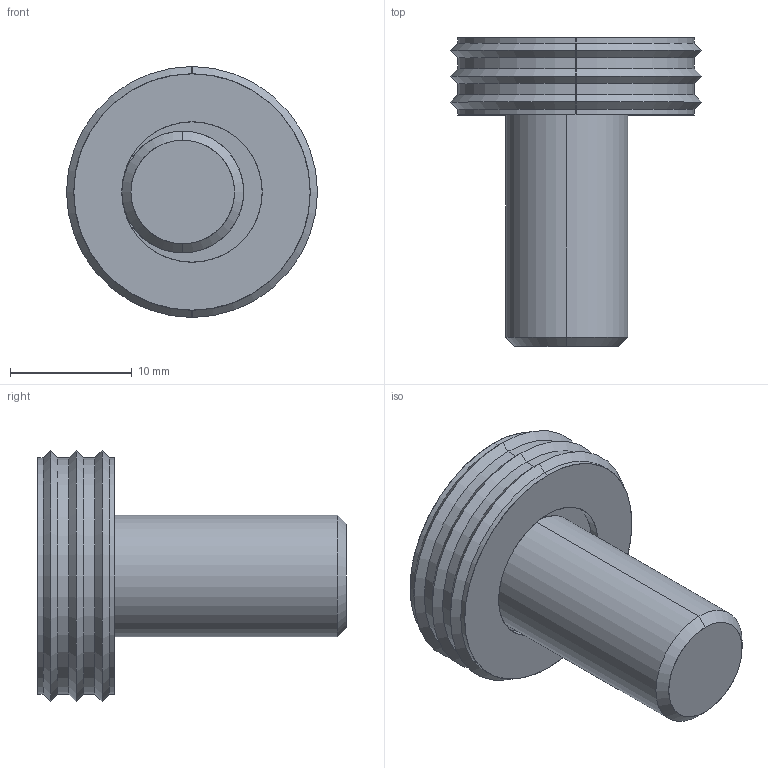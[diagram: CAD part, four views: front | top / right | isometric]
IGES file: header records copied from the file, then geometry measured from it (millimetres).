
Start section: SolidWorks IGES file using analytic representation for surfaces
Global section: file name: E:\Pending\12120_v2\12120_v2_20171107_IGES\Default.igs; native system: SolidWorks 2017; preprocessor: SolidWorks 2017; author: liam_; date: 171214.131755; units: millimetre
Bounding box: 20.6 x 25.35 x 20.6 mm (x, y, z)
Surface area: 2295.2 mm2 (no closed solid volume)
Topology: 0 solids, 0 shells, 45 faces, 484 edges, 484 vertices
Faces by surface type: revolution 32, bspline 13
